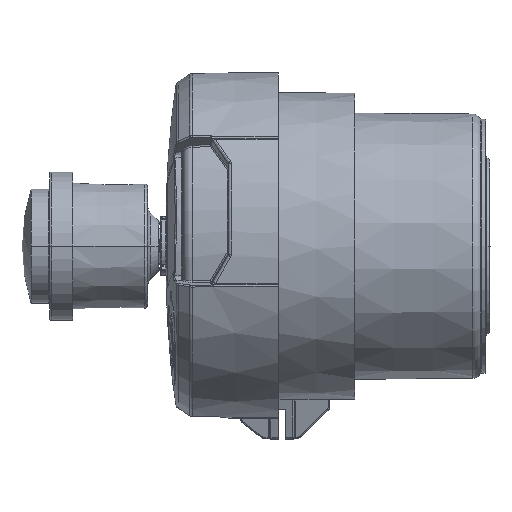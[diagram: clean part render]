
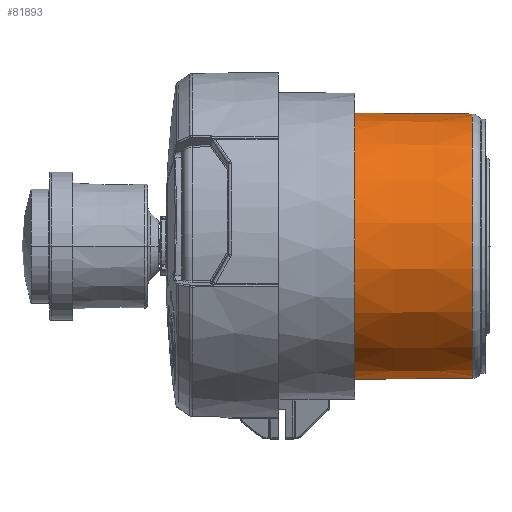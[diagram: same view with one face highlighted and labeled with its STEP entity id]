
A CAD part, left-side view. The second image highlights one B-rep face of the part: STEP entity #81893.
In plain terms, the highlighted conical face has half-angle 0.5 degrees and reference radius 45.224 mm.
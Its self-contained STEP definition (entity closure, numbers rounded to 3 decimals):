
#22902=CARTESIAN_POINT('',(0.,-62.,0.));
#22903=DIRECTION('',(0.,-1.,0.));
#22904=DIRECTION('',(0.,0.,1.));
#22905=AXIS2_PLACEMENT_3D('',#22902,#22903,#22904);
#22926=DIRECTION('',(0.,-1.,-0.009));
#22927=VECTOR('',#22926,40.212);
#22928=CARTESIAN_POINT('',(0.,-62.,45.399));
#22929=LINE('',#22928,#22927);
#22933=CARTESIAN_POINT('',(0.,-102.21,0.));
#22934=DIRECTION('',(0.,-1.,0.));
#22935=DIRECTION('',(0.,0.,1.));
#22936=AXIS2_PLACEMENT_3D('',#22933,#22934,#22935);
#22941=DIRECTION('',(0.,1.,-0.009));
#22942=VECTOR('',#22941,40.212);
#22943=CARTESIAN_POINT('',(0.,-102.21,
-45.048));
#22944=LINE('',#22943,#22942);
#44522=CARTESIAN_POINT('',(0.,-102.21,-45.048));
#44523=CARTESIAN_POINT('',(0.,-102.21,45.048));
#44524=VERTEX_POINT('',#44522);
#44525=VERTEX_POINT('',#44523);
#46384=CARTESIAN_POINT('',(0.,-62.,-45.399));
#46385=VERTEX_POINT('',#46384);
#46386=CARTESIAN_POINT('',(0.,-62.,45.399));
#46387=VERTEX_POINT('',#46386);
#81882=CARTESIAN_POINT('',(0.,-82.105,0.));
#81883=DIRECTION('',(0.,1.,0.));
#81884=DIRECTION('',(0.,0.,-1.));
#81885=AXIS2_PLACEMENT_3D('',#81882,#81883,#81884);
#81886=CONICAL_SURFACE('',#81885,45.224,0.5);
#81887=ORIENTED_EDGE('',*,*,#81877,.F.);
#81888=ORIENTED_EDGE('',*,*,#81860,.T.);
#81889=ORIENTED_EDGE('',*,*,#81817,.T.);
#81890=ORIENTED_EDGE('',*,*,#81857,.T.);
#81891=EDGE_LOOP('',(#81887,#81888,#81889,#81890));
#81892=FACE_OUTER_BOUND('',#81891,.F.);
#22906=CIRCLE('',#22905,45.399);
#22937=CIRCLE('',#22936,45.048);
#81817=EDGE_CURVE('',#44525,#44524,#22937,.T.);
#81857=EDGE_CURVE('',#44524,#46385,#22944,.T.);
#81860=EDGE_CURVE('',#46387,#44525,#22929,.T.);
#81877=EDGE_CURVE('',#46387,#46385,#22906,.T.);
#81893=ADVANCED_FACE('',(#81892),#81886,.T.);
